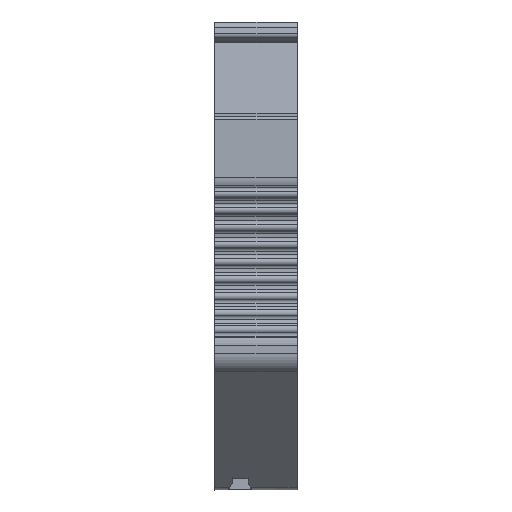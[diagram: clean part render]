
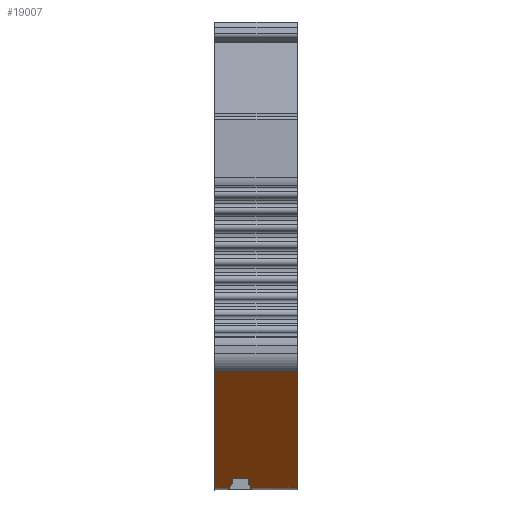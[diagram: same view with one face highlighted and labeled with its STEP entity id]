
A CAD part, left-side view. The second image highlights one B-rep face of the part: STEP entity #19007.
In plain terms, the highlighted planar face has unit normal (-0.446, 0, -0.895).
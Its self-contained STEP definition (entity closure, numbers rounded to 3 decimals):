
#732=DIRECTION('',(-0.895,0.,0.446));
#733=VECTOR('',#732,19.528);
#734=CARTESIAN_POINT('',(-57.592,0.,
0.21));
#735=LINE('',#734,#733);
#5469=DIRECTION('',(0.895,0.,-0.446));
#5470=VECTOR('',#5469,19.528);
#5471=CARTESIAN_POINT('',(-75.069,-6.2,
8.922));
#5472=LINE('',#5471,#5470);
#6049=DIRECTION('',(0.,-1.,0.));
#6050=VECTOR('',#6049,6.2);
#6051=CARTESIAN_POINT('',(-75.069,0.,
8.922));
#6052=LINE('',#6051,#6050);
#6066=DIRECTION('',(0.865,0.259,-0.431));
#6067=VECTOR('',#6066,0.673);
#6068=CARTESIAN_POINT('',(-58.174,-1.3,
0.5));
#6069=LINE('',#6068,#6067);
#6127=DIRECTION('',(0.895,0.,-0.446));
#6128=VECTOR('',#6127,0.811);
#6129=CARTESIAN_POINT('',(-58.9,-1.3,
0.862));
#6130=LINE('',#6129,#6128);
#6167=DIRECTION('',(-0.895,0.,0.446));
#6168=VECTOR('',#6167,0.811);
#6169=CARTESIAN_POINT('',(-58.174,-2.5,
0.5));
#6170=LINE('',#6169,#6168);
#6380=DIRECTION('',(0.,1.,0.));
#6381=VECTOR('',#6380,1.2);
#6382=CARTESIAN_POINT('',(-58.9,-2.5,
0.862));
#6383=LINE('',#6382,#6381);
#6388=DIRECTION('',(-0.865,0.259,0.431));
#6389=VECTOR('',#6388,0.673);
#6390=CARTESIAN_POINT('',(-57.592,-2.674,
0.21));
#6391=LINE('',#6390,#6389);
#6412=DIRECTION('',(0.,1.,0.));
#6413=VECTOR('',#6412,3.526);
#6414=CARTESIAN_POINT('',(-57.592,-6.2,
0.21));
#6415=LINE('',#6414,#6413);
#9511=DIRECTION('',(0.,1.,0.));
#9512=VECTOR('',#9511,1.126);
#9513=CARTESIAN_POINT('',(-57.592,-1.126,
0.21));
#9514=LINE('',#9513,#9512);
#10911=CARTESIAN_POINT('',(-57.592,-6.2,
0.21));
#10912=VERTEX_POINT('',#10911);
#10913=CARTESIAN_POINT('',(-57.592,-2.674,
0.21));
#10914=VERTEX_POINT('',#10913);
#10915=CARTESIAN_POINT('',(-58.174,-2.5,
0.5));
#10917=VERTEX_POINT('',#10915);
#11077=CARTESIAN_POINT('',(-58.9,-2.5,
0.862));
#11078=VERTEX_POINT('',#11077);
#11083=CARTESIAN_POINT('',(-58.9,-1.3,
0.862));
#11085=VERTEX_POINT('',#11083);
#11095=CARTESIAN_POINT('',(-58.174,-1.3,
0.5));
#11096=VERTEX_POINT('',#11095);
#11097=CARTESIAN_POINT('',(-57.592,-1.126,
0.21));
#11098=VERTEX_POINT('',#11097);
#11099=CARTESIAN_POINT('',(-57.592,0.,
0.21));
#11100=VERTEX_POINT('',#11099);
#11101=CARTESIAN_POINT('',(-75.069,-6.2,
8.922));
#11102=VERTEX_POINT('',#11101);
#11103=CARTESIAN_POINT('',(-75.069,0.,
8.922));
#11104=VERTEX_POINT('',#11103);
#18983=CARTESIAN_POINT('',(-66.331,-3.1,
4.566));
#18984=DIRECTION('',(0.446,0.,0.895));
#18985=DIRECTION('',(0.,-1.,0.));
#18986=AXIS2_PLACEMENT_3D('',#18983,#18984,#18985);
#18987=PLANE('',#18986);
#18989=ORIENTED_EDGE('',*,*,#18988,.T.);
#18991=ORIENTED_EDGE('',*,*,#18990,.T.);
#18992=ORIENTED_EDGE('',*,*,#13097,.T.);
#18993=ORIENTED_EDGE('',*,*,#18975,.T.);
#18994=ORIENTED_EDGE('',*,*,#18063,.T.);
#18996=ORIENTED_EDGE('',*,*,#18995,.T.);
#18998=ORIENTED_EDGE('',*,*,#18997,.T.);
#19000=ORIENTED_EDGE('',*,*,#18999,.T.);
#19002=ORIENTED_EDGE('',*,*,#19001,.T.);
#19004=ORIENTED_EDGE('',*,*,#19003,.T.);
#19005=EDGE_LOOP('',(#18989,#18991,#18992,#18993,#18994,#18996,#18998,#19000,
#19002,#19004));
#19006=FACE_OUTER_BOUND('',#19005,.F.);
#19007=ADVANCED_FACE('',(#19006),#18987,.F.);
#13097=EDGE_CURVE('',#11100,#11104,#735,.T.);
#18063=EDGE_CURVE('',#11102,#10912,#5472,.T.);
#18975=EDGE_CURVE('',#11104,#11102,#6052,.T.);
#18988=EDGE_CURVE('',#11096,#11098,#6069,.T.);
#18990=EDGE_CURVE('',#11098,#11100,#9514,.T.);
#18995=EDGE_CURVE('',#10912,#10914,#6415,.T.);
#18997=EDGE_CURVE('',#10914,#10917,#6391,.T.);
#18999=EDGE_CURVE('',#10917,#11078,#6170,.T.);
#19001=EDGE_CURVE('',#11078,#11085,#6383,.T.);
#19003=EDGE_CURVE('',#11085,#11096,#6130,.T.);
